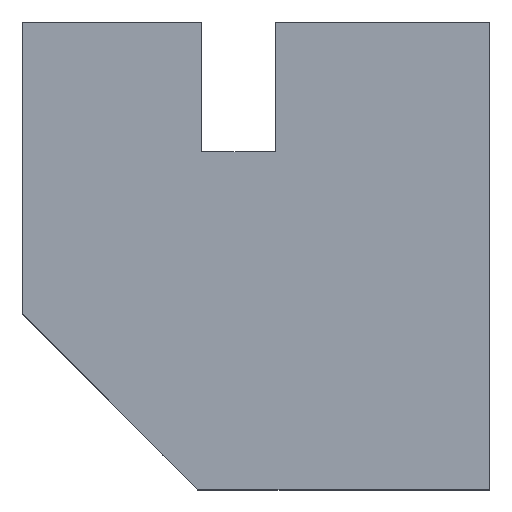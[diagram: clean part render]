
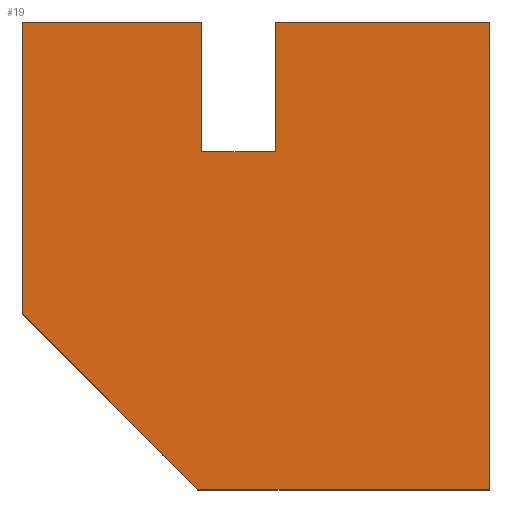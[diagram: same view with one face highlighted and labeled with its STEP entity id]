
A CAD part, top view. The second image highlights one B-rep face of the part: STEP entity #19.
In plain terms, the highlighted planar face has unit normal (0, 0, 1).
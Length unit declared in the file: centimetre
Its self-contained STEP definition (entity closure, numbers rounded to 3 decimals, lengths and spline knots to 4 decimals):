
#19 = ADVANCED_FACE ( 'NONE', ( #449 ), #678, .T. ) ;
#36 = CARTESIAN_POINT ( 'NONE',  ( 187.6835, 187.6835, 1000. ) ) ;
#40 = ORIENTED_EDGE ( 'NONE', *, *, #131, .T. ) ;
#95 = VECTOR ( 'NONE', #369, 100. ) ;
#108 = VERTEX_POINT ( 'NONE', #636 ) ;
#113 = DIRECTION ( 'NONE',  ( 0., 0., 1. ) ) ;
#118 = EDGE_CURVE ( 'NONE', #556, #674, #353, .T. ) ;
#131 = EDGE_CURVE ( 'NONE', #709, #547, #366, .T. ) ;
#137 = CARTESIAN_POINT ( 'NONE',  ( 0., 0., 1000. ) ) ;
#144 = VERTEX_POINT ( 'NONE', #588 ) ;
#153 = CARTESIAN_POINT ( 'NONE',  ( 1000., 1000., 1000. ) ) ;
#167 = CARTESIAN_POINT ( 'NONE',  ( 0., 1000., 1000. ) ) ;
#181 = DIRECTION ( 'NONE',  ( -1., 0., 0. ) ) ;
#191 = CARTESIAN_POINT ( 'NONE',  ( 383.4693, 722.6577, 1000. ) ) ;
#196 = CARTESIAN_POINT ( 'NONE',  ( 0., 1000., 1000. ) ) ;
#202 = DIRECTION ( 'NONE',  ( 1., 0., 0. ) ) ;
#207 = DIRECTION ( 'NONE',  ( 0., -1., 0. ) ) ;
#209 = AXIS2_PLACEMENT_3D ( 'NONE', #379, #113, #601 ) ;
#212 = EDGE_CURVE ( 'NONE', #108, #472, #654, .T. ) ;
#215 = CARTESIAN_POINT ( 'NONE',  ( 541.8243, 722.6577, 1000. ) ) ;
#218 = CARTESIAN_POINT ( 'NONE',  ( 383.4693, 1000., 1000. ) ) ;
#220 = EDGE_CURVE ( 'NONE', #330, #235, #403, .T. ) ;
#227 = CARTESIAN_POINT ( 'NONE',  ( 383.4693, 722.6577, 1000. ) ) ;
#228 = VECTOR ( 'NONE', #441, 100. ) ;
#233 = CARTESIAN_POINT ( 'NONE',  ( 0., 1000., 1000. ) ) ;
#234 = DIRECTION ( 'NONE',  ( 0., -1., 0. ) ) ;
#235 = VERTEX_POINT ( 'NONE', #227 ) ;
#241 = LINE ( 'NONE', #289, #545 ) ;
#254 = CARTESIAN_POINT ( 'NONE',  ( 1000., 0., 1000. ) ) ;
#257 = VECTOR ( 'NONE', #202, 100. ) ;
#271 = ORIENTED_EDGE ( 'NONE', *, *, #467, .T. ) ;
#289 = CARTESIAN_POINT ( 'NONE',  ( 0., 1000., 1000. ) ) ;
#302 = ORIENTED_EDGE ( 'NONE', *, *, #651, .F. ) ;
#323 = EDGE_CURVE ( 'NONE', #330, #709, #599, .T. ) ;
#330 = VERTEX_POINT ( 'NONE', #218 ) ;
#345 = ORIENTED_EDGE ( 'NONE', *, *, #392, .T. ) ;
#353 = LINE ( 'NONE', #153, #95 ) ;
#360 = LINE ( 'NONE', #36, #384 ) ;
#366 = LINE ( 'NONE', #196, #490 ) ;
#369 = DIRECTION ( 'NONE',  ( 0., 1., 0. ) ) ;
#370 = ORIENTED_EDGE ( 'NONE', *, *, #453, .T. ) ;
#371 = DIRECTION ( 'NONE',  ( -1., 0., 0. ) ) ;
#379 = CARTESIAN_POINT ( 'NONE',  ( 0., 0., 1000. ) ) ;
#384 = VECTOR ( 'NONE', #427, 100. ) ;
#391 = CARTESIAN_POINT ( 'NONE',  ( 383.4693, 722.6577, 1000. ) ) ;
#392 = EDGE_CURVE ( 'NONE', #674, #472, #241, .T. ) ;
#395 = ORIENTED_EDGE ( 'NONE', *, *, #118, .T. ) ;
#402 = EDGE_LOOP ( 'NONE', ( #428, #538, #40, #271, #370, #395, #345, #679, #302 ) ) ;
#403 = LINE ( 'NONE', #391, #633 ) ;
#427 = DIRECTION ( 'NONE',  ( 0.707, -0.707, 0. ) ) ;
#428 = ORIENTED_EDGE ( 'NONE', *, *, #220, .F. ) ;
#441 = DIRECTION ( 'NONE',  ( 0., 1., 0. ) ) ;
#449 = FACE_OUTER_BOUND ( 'NONE', #402, .T. ) ;
#453 = EDGE_CURVE ( 'NONE', #144, #556, #700, .T. ) ;
#462 = CARTESIAN_POINT ( 'NONE',  ( 0., 375.367, 1000. ) ) ;
#467 = EDGE_CURVE ( 'NONE', #547, #144, #360, .T. ) ;
#472 = VERTEX_POINT ( 'NONE', #583 ) ;
#490 = VECTOR ( 'NONE', #207, 100. ) ;
#517 = LINE ( 'NONE', #191, #627 ) ;
#538 = ORIENTED_EDGE ( 'NONE', *, *, #323, .T. ) ;
#545 = VECTOR ( 'NONE', #181, 100. ) ;
#547 = VERTEX_POINT ( 'NONE', #462 ) ;
#556 = VERTEX_POINT ( 'NONE', #254 ) ;
#561 = VECTOR ( 'NONE', #371, 100. ) ;
#576 = DIRECTION ( 'NONE',  ( 1., 0., 0. ) ) ;
#583 = CARTESIAN_POINT ( 'NONE',  ( 541.8243, 1000., 1000. ) ) ;
#588 = CARTESIAN_POINT ( 'NONE',  ( 375.367, 0., 1000. ) ) ;
#599 = LINE ( 'NONE', #167, #561 ) ;
#601 = DIRECTION ( 'NONE',  ( 1., 0., 0. ) ) ;
#627 = VECTOR ( 'NONE', #576, 100. ) ;
#633 = VECTOR ( 'NONE', #234, 100. ) ;
#636 = CARTESIAN_POINT ( 'NONE',  ( 541.8243, 722.6577, 1000. ) ) ;
#646 = CARTESIAN_POINT ( 'NONE',  ( 1000., 1000., 1000. ) ) ;
#651 = EDGE_CURVE ( 'NONE', #235, #108, #517, .T. ) ;
#654 = LINE ( 'NONE', #215, #228 ) ;
#674 = VERTEX_POINT ( 'NONE', #646 ) ;
#678 = PLANE ( 'NONE',  #209 ) ;
#679 = ORIENTED_EDGE ( 'NONE', *, *, #212, .F. ) ;
#700 = LINE ( 'NONE', #137, #257 ) ;
#709 = VERTEX_POINT ( 'NONE', #233 ) ;
